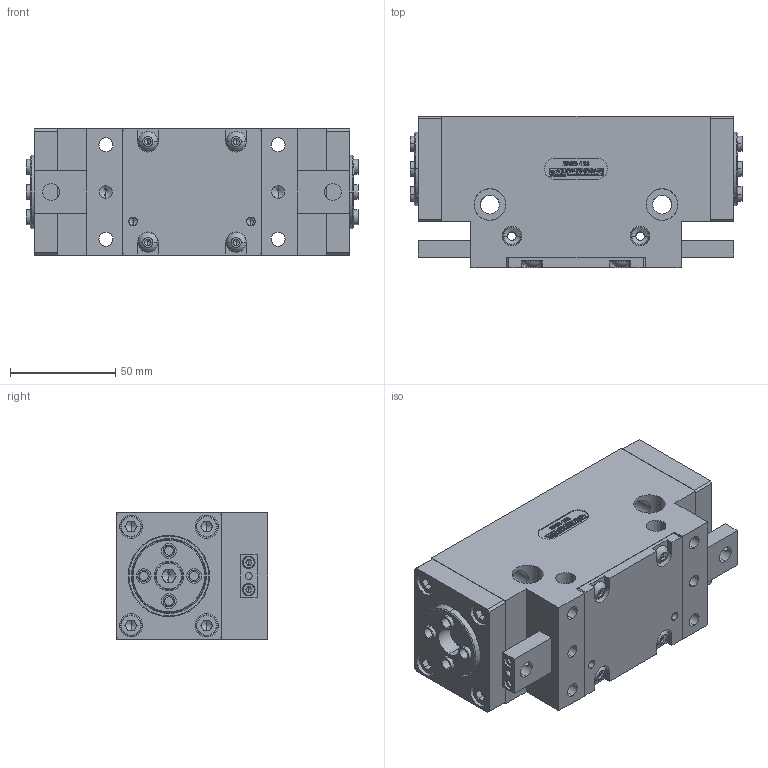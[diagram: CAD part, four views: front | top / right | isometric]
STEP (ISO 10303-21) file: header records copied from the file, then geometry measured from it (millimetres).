
FILE_DESCRIPTION (( 'STEP AP214' ), '1' );
FILE_NAME ('2PGS 125.STEP', '2012-02-28T07:32:25', ( 'xw4600' ), ( '' ), 'SwSTEP 2.0', 'SolidWorks 2010', '' );
FILE_SCHEMA (( 'AUTOMOTIVE_DESIGN' ));
Length unit declared in the file: millimetre
Products named in the file (22): 2DP-125-01_Default; 2DP-125-02_Default; 2DP-125-03_Default; 2DP-125-04_Default; 2DP-125-05_Default; 2DP-125-06_Default; 2DP-125-07_Default; 2DP-125-08_Default; 2DP-125-11_Default; 2DP-125-13_Default; Q-ring(Q4115A)_Default; Q-ring(Q4132)_Default; O-rings(S8)_O-ring 8x1.8-B-ISO 3601-1; O-rings(S50)_O-ring 40x2.65-B-ISO 3601-1; Countersunk Head Screw_ISO 10642 - M5 x 12 --- 12N; socket button head screw_ISO 7380 - M5 x 10 --- 10N; Socket Head Cap Screw_ISO 4762 M6 x 12 --- 12N; Socket Head Cap Screw_ISO 4762 M8 x 16 --- 16N; Socket Head Cap Screw_ISO 4762 M3 x 30 --- 18N; Countersunk Head Screw_ISO 10642 - M6 x 25 --- 25N; mark(2DP-125)_Default; 2PGS 125
Assembly tree (56 placements, depth 2):
  2PGS 125
    2DP-125-05_Default
    O-rings(S50)_O-ring 40x2.65-B-ISO 3601-1
    Countersunk Head Screw_ISO 10642 - M5 x 12 --- 12N  x10
    Countersunk Head Screw_ISO 10642 - M6 x 25 --- 25N
    2DP-125-11_Default  x8
    Q-ring(Q4115A)_Default
    Socket Head Cap Screw_ISO 4762 M6 x 12 --- 12N  x8
    mark(2DP-125)_Default  x2
    2DP-125-08_Default  x2
    socket button head screw_ISO 7380 - M5 x 10 --- 10N  x4
    2DP-125-03_Default  x2
    2DP-125-07_Default
    Socket Head Cap Screw_ISO 4762 M8 x 16 --- 16N  x2
    Socket Head Cap Screw_ISO 4762 M3 x 30 --- 18N  x4
    2DP-125-01_Default
    2DP-125-13_Default  x2
    2DP-125-02_Default
    Q-ring(Q4132)_Default
    O-rings(S8)_O-ring 8x1.8-B-ISO 3601-1
    2DP-125-04_Default  x2
    2DP-125-06_Default
Bounding box: 158 x 72 x 60 mm (x, y, z)
Volume: 479089.7 mm3; surface area: 178058.1 mm2
Topology: 56 solids, 58 shells, 3422 faces, 8519 edges, 5394 vertices
Faces by surface type: plane 1875, bspline 566, cylinder 505, cone 262, torus 206, sphere 8
Entity records: 78939 total; most frequent: CARTESIAN_POINT 27065, ORIENTED_EDGE 8708, DIRECTION 7759, EDGE_CURVE 4354, VERTEX_POINT 2815, LINE 2749, VECTOR 2749, AXIS2_PLACEMENT_3D 2505
